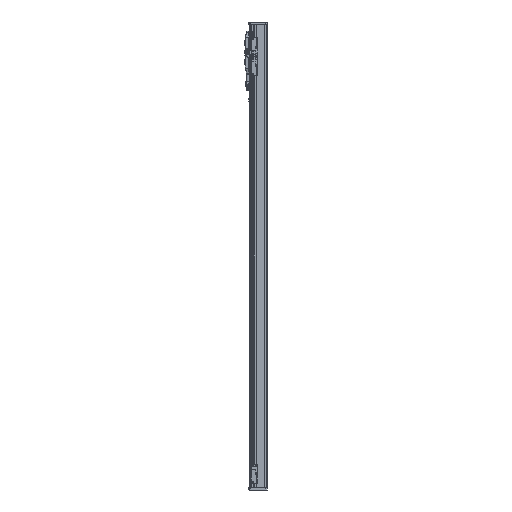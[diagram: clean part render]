
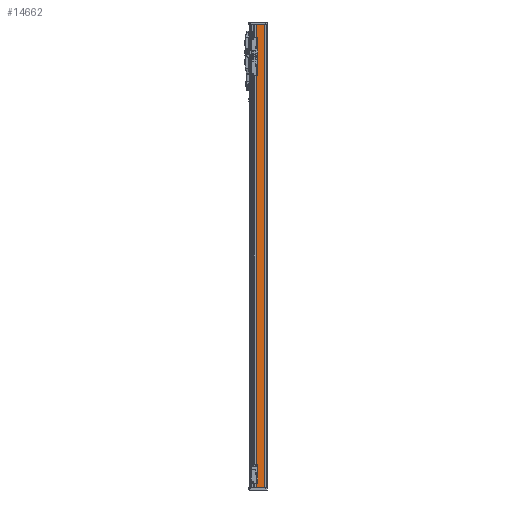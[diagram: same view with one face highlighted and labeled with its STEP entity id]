
A CAD part, left-side view. The second image highlights one B-rep face of the part: STEP entity #14662.
In plain terms, the highlighted planar face has unit normal (-1, 0, 0).
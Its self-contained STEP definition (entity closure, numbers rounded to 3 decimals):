
#152 = PLANE('',#153);
#153 = AXIS2_PLACEMENT_3D('',#154,#155,#156);
#154 = CARTESIAN_POINT('',(0.,0.,625.));
#155 = DIRECTION('',(-0.,0.,1.));
#156 = DIRECTION('',(1.,0.,0.));
#817 = PLANE('',#818);
#818 = AXIS2_PLACEMENT_3D('',#819,#820,#821);
#819 = CARTESIAN_POINT('',(0.,0.,-625.));
#820 = DIRECTION('',(-0.,0.,1.));
#821 = DIRECTION('',(1.,0.,0.));
#7931 = PLANE('',#7932);
#7932 = AXIS2_PLACEMENT_3D('',#7933,#7934,#7935);
#7933 = CARTESIAN_POINT('',(-27.5,-17.,620.));
#7934 = DIRECTION('',(-0.707,0.707,0.));
#7935 = DIRECTION('',(0.,0.,1.));
#8333 = VERTEX_POINT('',#8334);
#8334 = CARTESIAN_POINT('',(-27.1,4.6,625.));
#8348 = PLANE('',#8349);
#8349 = AXIS2_PLACEMENT_3D('',#8350,#8351,#8352);
#8350 = CARTESIAN_POINT('',(-27.1,4.6,620.));
#8351 = DIRECTION('',(-0.707,-0.707,0.));
#8352 = DIRECTION('',(0.,0.,1.));
#8360 = EDGE_CURVE('',#8333,#8361,#8363,.T.);
#8361 = VERTEX_POINT('',#8362);
#8362 = CARTESIAN_POINT('',(-27.1,-16.6,625.));
#8363 = SURFACE_CURVE('',#8364,(#8368,#8375),.PCURVE_S1.);
#8364 = LINE('',#8365,#8366);
#8365 = CARTESIAN_POINT('',(-27.1,8.,625.));
#8366 = VECTOR('',#8367,1.);
#8367 = DIRECTION('',(0.,-1.,0.));
#8368 = PCURVE('',#152,#8369);
#8369 = DEFINITIONAL_REPRESENTATION('',(#8370),#8374);
#8370 = LINE('',#8371,#8372);
#8371 = CARTESIAN_POINT('',(-27.1,8.));
#8372 = VECTOR('',#8373,1.);
#8373 = DIRECTION('',(0.,-1.));
#8374 = ( GEOMETRIC_REPRESENTATION_CONTEXT(2) 
PARAMETRIC_REPRESENTATION_CONTEXT() REPRESENTATION_CONTEXT('2D SPACE',''
  ) );
#8375 = PCURVE('',#8376,#8381);
#8376 = PLANE('',#8377);
#8377 = AXIS2_PLACEMENT_3D('',#8378,#8379,#8380);
#8378 = CARTESIAN_POINT('',(-27.1,8.,620.));
#8379 = DIRECTION('',(1.,0.,0.));
#8380 = DIRECTION('',(0.,1.,0.));
#8381 = DEFINITIONAL_REPRESENTATION('',(#8382),#8386);
#8382 = LINE('',#8383,#8384);
#8383 = CARTESIAN_POINT('',(0.,5.));
#8384 = VECTOR('',#8385,1.);
#8385 = DIRECTION('',(-1.,0.));
#8386 = ( GEOMETRIC_REPRESENTATION_CONTEXT(2) 
PARAMETRIC_REPRESENTATION_CONTEXT() REPRESENTATION_CONTEXT('2D SPACE',''
  ) );
#9400 = VERTEX_POINT('',#9401);
#9401 = CARTESIAN_POINT('',(-27.1,-16.6,-625.));
#9422 = EDGE_CURVE('',#9400,#9423,#9425,.T.);
#9423 = VERTEX_POINT('',#9424);
#9424 = CARTESIAN_POINT('',(-27.1,4.6,-625.));
#9425 = SURFACE_CURVE('',#9426,(#9430,#9437),.PCURVE_S1.);
#9426 = LINE('',#9427,#9428);
#9427 = CARTESIAN_POINT('',(-27.1,0.,-625.));
#9428 = VECTOR('',#9429,1.);
#9429 = DIRECTION('',(0.,1.,0.));
#9430 = PCURVE('',#817,#9431);
#9431 = DEFINITIONAL_REPRESENTATION('',(#9432),#9436);
#9432 = LINE('',#9433,#9434);
#9433 = CARTESIAN_POINT('',(-27.1,0.));
#9434 = VECTOR('',#9435,1.);
#9435 = DIRECTION('',(0.,1.));
#9436 = ( GEOMETRIC_REPRESENTATION_CONTEXT(2) 
PARAMETRIC_REPRESENTATION_CONTEXT() REPRESENTATION_CONTEXT('2D SPACE',''
  ) );
#9437 = PCURVE('',#8376,#9438);
#9438 = DEFINITIONAL_REPRESENTATION('',(#9439),#9443);
#9439 = LINE('',#9440,#9441);
#9440 = CARTESIAN_POINT('',(-8.,-1245.));
#9441 = VECTOR('',#9442,1.);
#9442 = DIRECTION('',(1.,0.));
#9443 = ( GEOMETRIC_REPRESENTATION_CONTEXT(2) 
PARAMETRIC_REPRESENTATION_CONTEXT() REPRESENTATION_CONTEXT('2D SPACE',''
  ) );
#14662 = ADVANCED_FACE('',(#14663),#8376,.F.);
#14663 = FACE_BOUND('',#14664,.T.);
#14664 = EDGE_LOOP('',(#14665,#14666,#14687,#14688));
#14665 = ORIENTED_EDGE('',*,*,#8360,.F.);
#14666 = ORIENTED_EDGE('',*,*,#14667,.T.);
#14667 = EDGE_CURVE('',#8333,#9423,#14668,.T.);
#14668 = SURFACE_CURVE('',#14669,(#14673,#14680),.PCURVE_S1.);
#14669 = LINE('',#14670,#14671);
#14670 = CARTESIAN_POINT('',(-27.1,4.6,-620.));
#14671 = VECTOR('',#14672,1.);
#14672 = DIRECTION('',(0.,0.,-1.));
#14673 = PCURVE('',#8376,#14674);
#14674 = DEFINITIONAL_REPRESENTATION('',(#14675),#14679);
#14675 = LINE('',#14676,#14677);
#14676 = CARTESIAN_POINT('',(-3.4,-1240.));
#14677 = VECTOR('',#14678,1.);
#14678 = DIRECTION('',(0.,-1.));
#14679 = ( GEOMETRIC_REPRESENTATION_CONTEXT(2) 
PARAMETRIC_REPRESENTATION_CONTEXT() REPRESENTATION_CONTEXT('2D SPACE',''
  ) );
#14680 = PCURVE('',#8348,#14681);
#14681 = DEFINITIONAL_REPRESENTATION('',(#14682),#14686);
#14682 = LINE('',#14683,#14684);
#14683 = CARTESIAN_POINT('',(-1240.,0.));
#14684 = VECTOR('',#14685,1.);
#14685 = DIRECTION('',(-1.,0.));
#14686 = ( GEOMETRIC_REPRESENTATION_CONTEXT(2) 
PARAMETRIC_REPRESENTATION_CONTEXT() REPRESENTATION_CONTEXT('2D SPACE',''
  ) );
#14687 = ORIENTED_EDGE('',*,*,#9422,.F.);
#14688 = ORIENTED_EDGE('',*,*,#14689,.T.);
#14689 = EDGE_CURVE('',#9400,#8361,#14690,.T.);
#14690 = SURFACE_CURVE('',#14691,(#14695,#14702),.PCURVE_S1.);
#14691 = LINE('',#14692,#14693);
#14692 = CARTESIAN_POINT('',(-27.1,-16.6,620.));
#14693 = VECTOR('',#14694,1.);
#14694 = DIRECTION('',(0.,0.,1.));
#14695 = PCURVE('',#8376,#14696);
#14696 = DEFINITIONAL_REPRESENTATION('',(#14697),#14701);
#14697 = LINE('',#14698,#14699);
#14698 = CARTESIAN_POINT('',(-24.6,0.));
#14699 = VECTOR('',#14700,1.);
#14700 = DIRECTION('',(0.,1.));
#14701 = ( GEOMETRIC_REPRESENTATION_CONTEXT(2) 
PARAMETRIC_REPRESENTATION_CONTEXT() REPRESENTATION_CONTEXT('2D SPACE',''
  ) );
#14702 = PCURVE('',#7931,#14703);
#14703 = DEFINITIONAL_REPRESENTATION('',(#14704),#14708);
#14704 = LINE('',#14705,#14706);
#14705 = CARTESIAN_POINT('',(0.,0.566));
#14706 = VECTOR('',#14707,1.);
#14707 = DIRECTION('',(1.,0.));
#14708 = ( GEOMETRIC_REPRESENTATION_CONTEXT(2) 
PARAMETRIC_REPRESENTATION_CONTEXT() REPRESENTATION_CONTEXT('2D SPACE',''
  ) );
